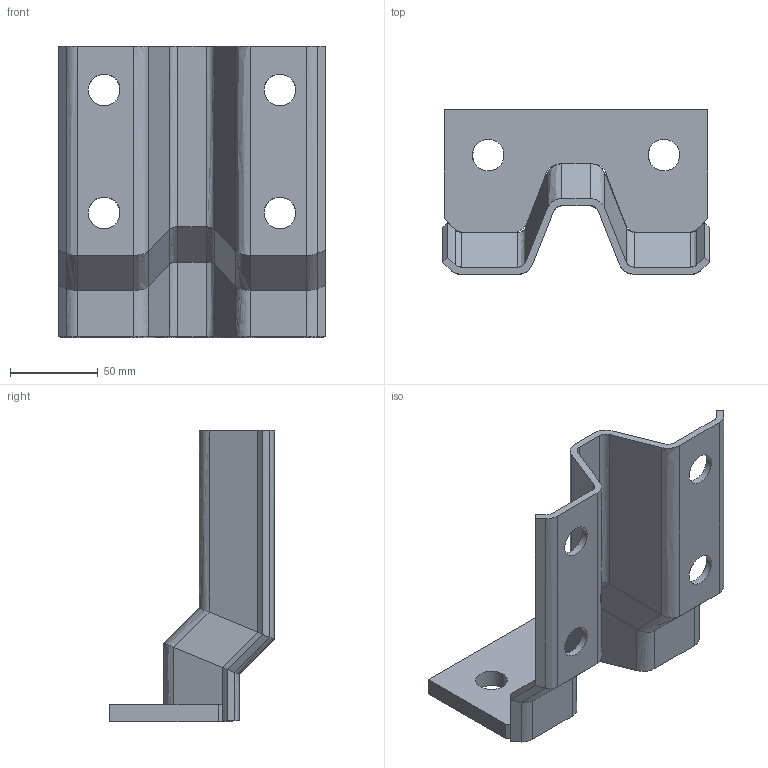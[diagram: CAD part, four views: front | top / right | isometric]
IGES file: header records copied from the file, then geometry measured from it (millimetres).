
Global section: file name: B200W100; native system: Autodesk RealDWG; preprocessor: Autodesk Translation Framework DWG producer (atf_dwg_producer); organization: unknown; date: 20230703.104107; units: centimetre
Bounding box: 151.72 x 94 x 166 mm (x, y, z)
Volume: 217912 mm3; surface area: 92896 mm2
Topology: 1 solids, 1 shells, 110 faces, 276 edges, 164 vertices
Faces by surface type: bspline 110
